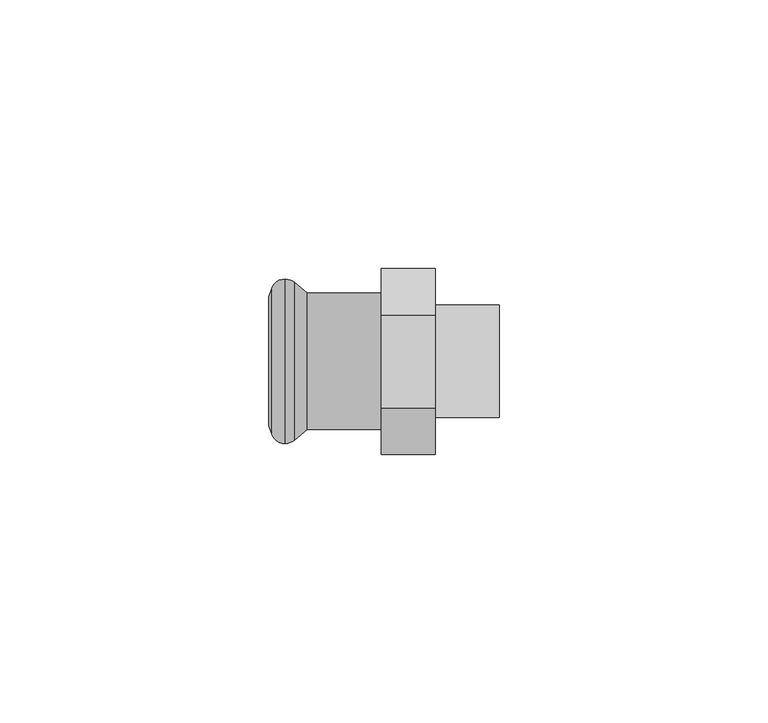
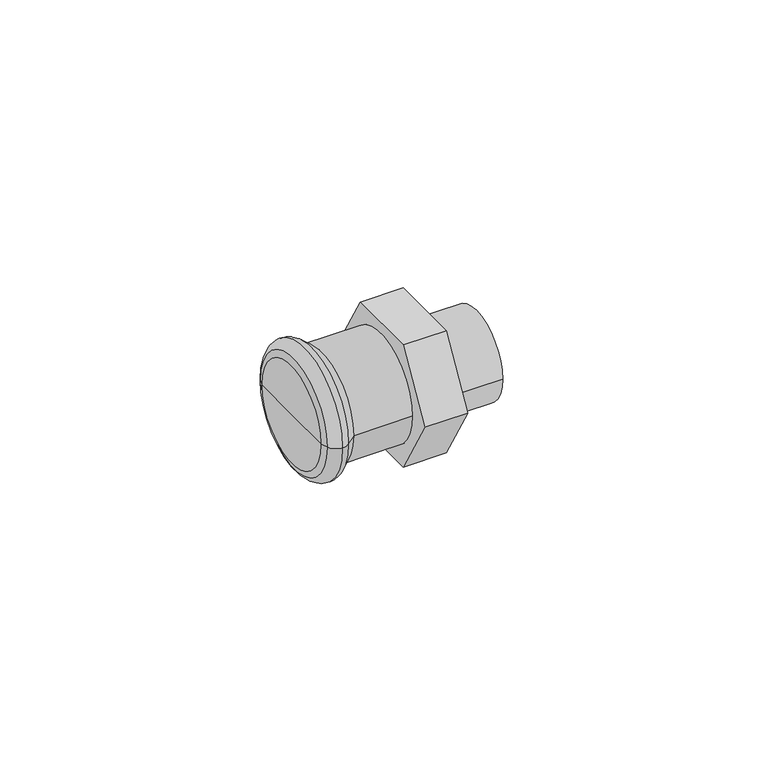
"""IFC4 building model written with IfcOpenShell, lengths in millimetres: pipe fitting geometry, KAN-therm Steel złączka z GZ : KAN-therm Steel złączka z GZ."""

from ifc_helpers import new_model, si_unit, point, frame, origin, origin_2d, place, context, project, spatial, polyline, circle_curve, ellipse_curve, trimmed, segment, composite_curve, outline, extrude, source, transform, mapped, element, save
from ifc_brep_helpers import plane_surface, cylinder_surface, revolved_surface, advanced_brep


def pipe_fitting_8462d430(model_context):
    return source(origin(), model_context, "Body", "SolidModel", [
        extrude(outline(composite_curve([segment(trimmed(circle_curve(origin_2d(), 10.5), [point((-10.5, 0.0))], [point((10.5, 0.0))], False, "CARTESIAN"), True, "CONTINUOUS"), segment(trimmed(circle_curve(origin_2d(), 10.5), [point((10.5, 0.0))], [point((-10.5, 0.0))], False, "CARTESIAN"), True, "CONTINUOUS")], self_intersect=False)), frame((10.0, 0.0, 0.0), z_axis=(1.0, 0.0, 0.0), x_axis=(0.0, 1.0, 0.0)), (0.0, 0.0, 1.0), 12.0),
        extrude(outline(polyline([(-17.3205081, 0.0), (-8.660254, 15.0), (8.660254, 15.0), (17.3205081, 0.0), (8.660254, -15.0), (-8.660254, -15.0), (-17.3205081, 0.0)])), frame((0.0, 0.0, 0.0), z_axis=(1.0, 0.0, 0.0), x_axis=(0.0, 1.0, 0.0)), (0.0, 0.0, 1.0), 10.0),
        advanced_brep(
        [(-13.7838092, -12.7, 0.0), (-13.7838092, 12.7, 0.0), (0.0, 12.7, 0.0), (0.0, -12.7, 0.0), (-16.0922627, -14.6370225, 0.0), (-16.0922627, 14.6370225, 0.0), (-17.8921278, -15.325, 0.0), (-17.8921278, 15.325, 0.0), (-20.432052, -13.5484544, 0.0), (-20.432052, 13.5484544, 0.0), (-21.0, -11.9880302, 0.0), (-21.0, 11.9880302, 0.0), (-21.0, 0.0, 0.0), (0.0, 0.0, 0.0)],
        [
            (0, 1, circle_curve(frame((-13.7838092, 0.0, 0.0), z_axis=(1.0, 0.0, 0.0), x_axis=(0.0, 1.0, 0.0)), 12.7)),
            (1, 2),
            (2, 3, circle_curve(frame((0.0, 0.0, 0.0), z_axis=(-1.0, 0.0, 0.0), x_axis=(0.0, 1.0, 0.0)), 12.7)),
            (3, 0),
            (1, 0, circle_curve(frame((-13.7838092, 0.0, 0.0), z_axis=(1.0, 0.0, 0.0), x_axis=(0.0, 1.0, 0.0)), 12.7)),
            (3, 2, circle_curve(frame((0.0, 0.0, 0.0), z_axis=(-1.0, 0.0, 0.0), x_axis=(0.0, 1.0, 0.0)), 12.7)),
            (4, 5, circle_curve(frame((-16.0922627, 0.0, 0.0), z_axis=(1.0, 0.0, 0.0), x_axis=(0.0, 1.0, 0.0)), 14.6370225)),
            (5, 1),
            (0, 4),
            (5, 4, circle_curve(frame((-16.0922627, 0.0, 0.0), z_axis=(1.0, 0.0, 0.0), x_axis=(0.0, 1.0, 0.0)), 14.6370225)),
            (6, 7, circle_curve(frame((-17.8921278, 0.0, 0.0), z_axis=(1.0, 0.0, 0.0), x_axis=(0.0, 1.0, 0.0)), 15.325)),
            (7, 5, circle_curve(frame((-17.8935049, 12.6230333, 0.0), z_axis=(0.0, 0.0, -1.0), x_axis=(1.0, 0.0, 0.0)), 2.701967)),
            (4, 6, circle_curve(frame((-17.8935049, -12.6230333, 0.0), z_axis=(0.0, 0.0, -1.0), x_axis=(1.0, 0.0, 0.0)), 2.701967)),
            (7, 6, circle_curve(frame((-17.8921278, 0.0, 0.0), z_axis=(1.0, 0.0, 0.0), x_axis=(0.0, 1.0, 0.0)), 15.325)),
            (8, 9, circle_curve(frame((-20.432052, 0.0, 0.0), z_axis=(1.0, 0.0, 0.0), x_axis=(0.0, 1.0, 0.0)), 13.5484544)),
            (9, 7, circle_curve(frame((-17.89488, 12.6249993, 0.0), z_axis=(0.0, 0.0, -1.0), x_axis=(1.0, 0.0, 0.0)), 2.7000021)),
            (6, 8, circle_curve(frame((-17.89488, -12.6249993, 0.0), z_axis=(0.0, 0.0, -1.0), x_axis=(1.0, 0.0, 0.0)), 2.7000021)),
            (9, 8, circle_curve(frame((-20.432052, 0.0, 0.0), z_axis=(1.0, 0.0, 0.0), x_axis=(0.0, 1.0, 0.0)), 13.5484544)),
            (10, 11, circle_curve(frame((-21.0, 0.0, 0.0), z_axis=(1.0, 0.0, 0.0), x_axis=(0.0, 1.0, 0.0)), 11.9880302)),
            (11, 9),
            (8, 10),
            (11, 10, circle_curve(frame((-21.0, 0.0, 0.0), z_axis=(1.0, 0.0, 0.0), x_axis=(0.0, 1.0, 0.0)), 11.9880302)),
            (12, 11),
            (10, 12),
            (2, 13),
            (13, 3),
        ],
        [
            cylinder_surface(frame((1335.742668, 0.0, 0.0), z_axis=(-1.0, 0.0, 0.0), x_axis=(0.0, 1.0, 0.0)), 12.7),
            revolved_surface(polyline([(-13.7838092, 12.7, 0.0), (-16.0922627, 14.6370225, 0.0)]), (1335.742668, 0.0, 0.0), (-1.0, 0.0, 0.0)),
            revolved_surface(trimmed(ellipse_curve(frame((-17.8935049, 12.6230333, 0.0), z_axis=(0.0, 0.0, 1.0), x_axis=(1.0, 0.0, 0.0)), 2.701967, 2.701967), [point((-16.0922627, 14.6370225, 0.0))], [point((-17.8921278, 15.325, 0.0))], True, "CARTESIAN"), (1335.742668, 0.0, 0.0), (-1.0, 0.0, 0.0)),
            revolved_surface(trimmed(ellipse_curve(frame((-17.89488, 12.6249993, 0.0), z_axis=(0.0, 0.0, 1.0), x_axis=(1.0, 0.0, 0.0)), 2.7000021, 2.7000021), [point((-17.8921278, 15.325, 0.0))], [point((-20.432052, 13.5484544, 0.0))], True, "CARTESIAN"), (1335.742668, 0.0, 0.0), (-1.0, 0.0, 0.0)),
            revolved_surface(polyline([(-20.432052, 13.5484544, 0.0), (-21.0, 11.9880302, 0.0)]), (1335.742668, 0.0, 0.0), (-1.0, 0.0, 0.0)),
            plane_surface(frame((-21.0, 0.0, 0.0), z_axis=(-1.0, 0.0, 0.0), x_axis=(0.0, 1.0, 0.0))),
            plane_surface(frame((0.0, 0.0, 0.0), z_axis=(1.0, 0.0, 0.0), x_axis=(0.0, 1.0, 0.0))),
        ],
        [
            (0, [[1, 2, 3, 4]]),
            (0, [[5, -4, 6, -2]]),
            (1, [[7, 8, -1, 9]]),
            (1, [[10, -9, -5, -8]]),
            (2, [[11, 12, -7, 13]]),
            (2, [[14, -13, -10, -12]]),
            (3, [[15, 16, -11, 17]]),
            (3, [[18, -17, -14, -16]]),
            (4, [[19, 20, -15, 21]]),
            (4, [[22, -21, -18, -20]]),
            (5, [[23, -19, 24]]),
            (5, [[-24, -22, -23]]),
            (6, [[-3, 25, 26]]),
            (6, [[-6, -26, -25]]),
        ],
    ),
    ])


if __name__ == "__main__":
    model = new_model("IFC4")
    model_context = context("Model", 3, world=origin())
    ifc_project = project(units=[si_unit("LENGTHUNIT", "METRE", prefix="MILLI")], contexts=[model_context])
    site = spatial("IfcSite", under=ifc_project)
    building = spatial("IfcBuilding", under=site)
    placement = place(None, origin())
    pipe_fitting_shape = pipe_fitting_8462d430(model_context)
    element("IfcPipeFitting", 1, ObjectType="KAN-therm Steel złączka z GZ : KAN-therm Steel złączka z GZ", at=placement, inside=building, context=model_context, shape_type="MappedRepresentation", body=[
        mapped(pipe_fitting_shape, transform((0.0, 0.0, 0.0), x_axis=(1.0, 0.0, 0.0), y_axis=(0.0, 1.0, 0.0), z_axis=(0.0, 0.0, 1.0))),
    ])
    save(model, "model.ifc")
